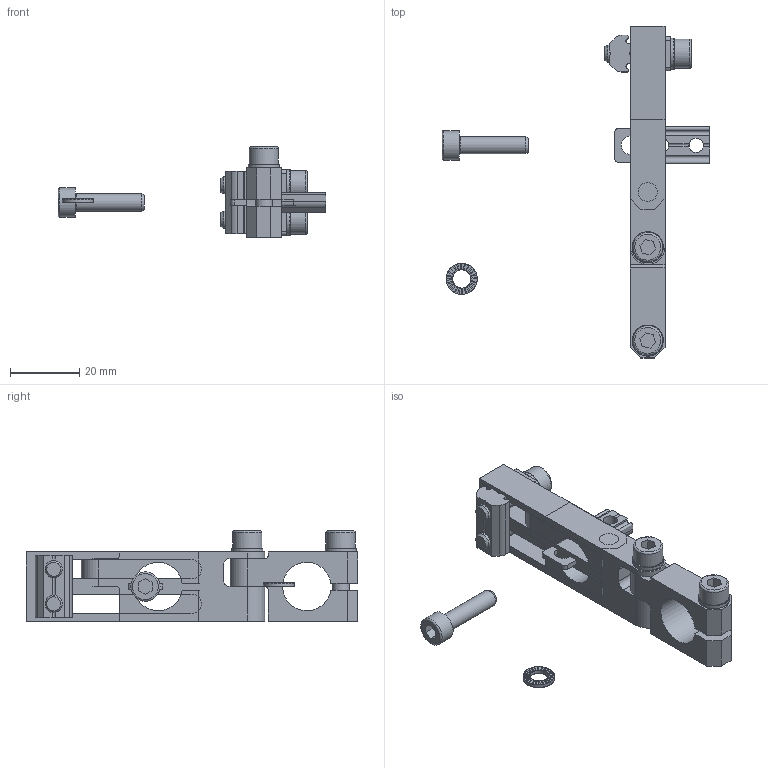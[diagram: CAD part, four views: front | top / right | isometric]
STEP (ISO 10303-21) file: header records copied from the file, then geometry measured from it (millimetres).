
FILE_DESCRIPTION( ( 'STEP AP214' ), '1' );
FILE_NAME( 'C:/Users/Segreteria/Desktop/CA.WSL.GA.14.X.stp', '2015-03-24T09:23:36', ( ' ' ), ( ' ' ), 'XStep 1.0', ' ', ' ' );
FILE_SCHEMA( ( 'CONFIG_CONTROL_DESIGN) ( )' ) );
Length unit declared in the file: metre
Products named in the file (8): Assem1; Assem2; R.5.SCH; WSL.GA.10.1; V-tcei M  5 x 20; WSL.GA.14.2; R.05.10; CA.GWP.5.10
Bounding box: 77.5 x 96 x 26.1 mm (x, y, z)
Volume: 40271.4 mm3; surface area: 32299.2 mm2
Topology: 17 solids, 24 shells, 1676 faces, 4891 edges, 3248 vertices
Faces by surface type: plane 1536, cylinder 119, torus 14, cone 7
Full cylindrical faces by diameter (mm): 4.134 x7, 4.2 x3, 5 x7, 5.2 x6, 5.3 x11, 5.5 x3, 8.5 x7, 9 x7
Entity records: 10034 total; most frequent: CARTESIAN_POINT 1766, DIRECTION 1703, ORIENTED_EDGE 1656, EDGE_CURVE 828, AXIS2_PLACEMENT_3D 576, VERTEX_POINT 559, LINE 551, VECTOR 551
